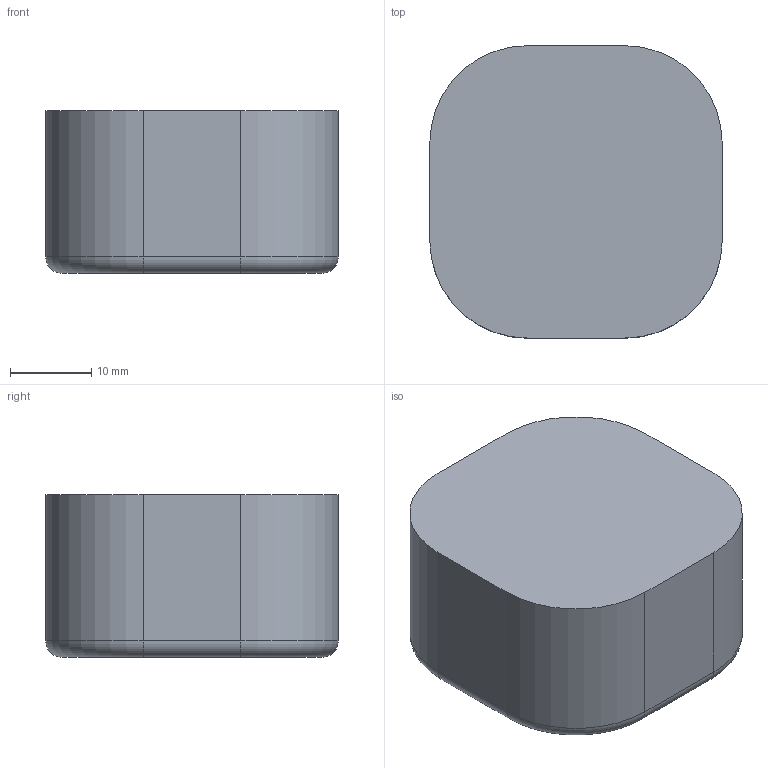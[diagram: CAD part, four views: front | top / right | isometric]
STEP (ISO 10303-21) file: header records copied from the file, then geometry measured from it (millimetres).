
FILE_DESCRIPTION(/* description */ (''),/* implementation_level */ '2;1');
FILE_NAME(/* name */ 'Z:\Flow\Inventor\Minireaktor 3 Anschlüsse.stp',/* time_stamp */ '2018-09-10T16:43:40+02:00',/* author */ ('JN'),/* organization */ (''),/* preprocessor_version */ 'ST-DEVELOPER v16.13',/* originating_system */ 'Autodesk Inventor 2018',/* authorisation */ '');
FILE_SCHEMA (('AUTOMOTIVE_DESIGN { 1 0 10303 214 3 1 1 }'));
Length unit declared in the file: millimetre
Products named in the file (1): Minireaktor 3 Anschlüsse
Bounding box: 36 x 36 x 20 mm (x, y, z)
Volume: 20286.1 mm3; surface area: 6761.8 mm2
Topology: 1 solids, 1 shells, 76 faces, 177 edges, 115 vertices
Faces by surface type: plane 48, cylinder 20, torus 7, bspline 1
Full cylindrical faces by diameter (mm): 2 x5, 6.4 x6, 11 x1
Entity records: 2194 total; most frequent: CARTESIAN_POINT 472, DIRECTION 349, ORIENTED_EDGE 314, EDGE_CURVE 157, AXIS2_PLACEMENT_3D 121, VERTEX_POINT 110, LINE 107, VECTOR 107
